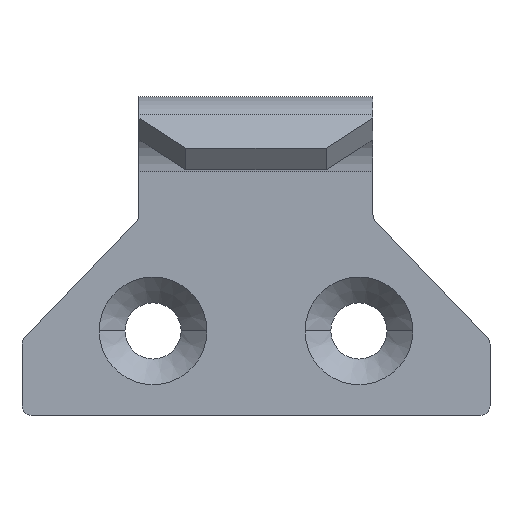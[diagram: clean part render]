
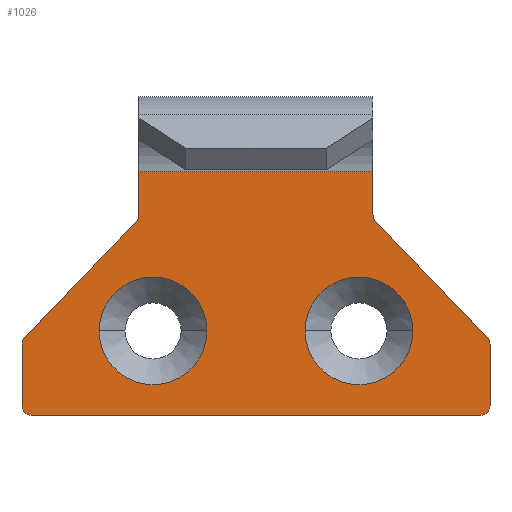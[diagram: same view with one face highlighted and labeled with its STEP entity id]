
A CAD part, top view. The second image highlights one B-rep face of the part: STEP entity #1026.
In plain terms, the highlighted planar face has unit normal (0, 0, 1).
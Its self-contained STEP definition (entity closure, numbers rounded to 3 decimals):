
#193=CARTESIAN_POINT('',(-12.5,4.5,1.5));
#194=VERTEX_POINT('',#193);
#202=CARTESIAN_POINT('',(12.5,4.5,1.5));
#203=VERTEX_POINT('',#202);
#204=CARTESIAN_POINT('',(12.5,4.5,1.5));
#205=DIRECTION('',(-1.0,0.0,0.0));
#206=VECTOR('',#205,25.0);
#207=LINE('',#204,#206);
#208=EDGE_CURVE('',#203,#194,#207,.T.);
#267=CARTESIAN_POINT('',(-5.25,-12.5,1.5));
#268=VERTEX_POINT('',#267);
#276=CARTESIAN_POINT('',(-16.75,-12.5,1.5));
#277=VERTEX_POINT('',#276);
#284=CARTESIAN_POINT('',(-11.0,-12.5,1.5));
#285=DIRECTION('',(0.0,0.0,-1.0));
#286=DIRECTION('',(1.0,0.0,0.0));
#287=AXIS2_PLACEMENT_3D('',#284,#285,#286);
#288=CIRCLE('',#287,5.75);
#289=EDGE_CURVE('',#268,#277,#288,.T.);
#341=CARTESIAN_POINT('',(16.75,-12.5,1.5));
#342=VERTEX_POINT('',#341);
#350=CARTESIAN_POINT('',(5.25,-12.5,1.5));
#351=VERTEX_POINT('',#350);
#358=CARTESIAN_POINT('',(11.0,-12.5,1.5));
#359=DIRECTION('',(0.0,0.0,-1.0));
#360=DIRECTION('',(1.0,0.0,0.0));
#361=AXIS2_PLACEMENT_3D('',#358,#359,#360);
#362=CIRCLE('',#361,5.75);
#363=EDGE_CURVE('',#342,#351,#362,.T.);
#375=CARTESIAN_POINT('',(-24.707,-21.207,1.5));
#376=VERTEX_POINT('',#375);
#392=CARTESIAN_POINT('',(-24.0,-21.5,1.5));
#393=VERTEX_POINT('',#392);
#400=CARTESIAN_POINT('',(-24.0,-20.5,1.5));
#401=DIRECTION('',(0.0,0.0,-1.));
#402=DIRECTION('',(-0.707,-0.707,0.0));
#403=AXIS2_PLACEMENT_3D('',#400,#401,#402);
#404=CIRCLE('',#403,1.);
#405=EDGE_CURVE('',#393,#376,#404,.T.);
#417=CARTESIAN_POINT('',(24.707,-21.207,1.5));
#418=VERTEX_POINT('',#417);
#434=CARTESIAN_POINT('',(25.0,-20.5,1.5));
#435=VERTEX_POINT('',#434);
#442=CARTESIAN_POINT('',(24.0,-20.5,1.5));
#443=DIRECTION('',(0.0,0.0,-1.));
#444=DIRECTION('',(0.707,-0.707,0.0));
#445=AXIS2_PLACEMENT_3D('',#442,#443,#444);
#446=CIRCLE('',#445,1.);
#447=EDGE_CURVE('',#435,#418,#446,.T.);
#459=CARTESIAN_POINT('',(24.928,-13.529,1.5));
#460=VERTEX_POINT('',#459);
#476=CARTESIAN_POINT('',(24.721,-13.21,1.5));
#477=VERTEX_POINT('',#476);
#484=CARTESIAN_POINT('',(24.0,-13.903,1.5));
#485=DIRECTION('',(0.0,0.0,-1.0));
#486=DIRECTION('',(0.928,0.374,0.0));
#487=AXIS2_PLACEMENT_3D('',#484,#485,#486);
#488=CIRCLE('',#487,1.0);
#489=EDGE_CURVE('',#477,#460,#488,.T.);
#501=CARTESIAN_POINT('',(12.572,-0.471,1.5));
#502=VERTEX_POINT('',#501);
#518=CARTESIAN_POINT('',(12.5,-0.097,1.5));
#519=VERTEX_POINT('',#518);
#526=CARTESIAN_POINT('',(13.5,-0.097,1.5));
#527=DIRECTION('',(0.0,0.0,1.0));
#528=DIRECTION('',(-0.928,-0.374,0.0));
#529=AXIS2_PLACEMENT_3D('',#526,#527,#528);
#530=CIRCLE('',#529,1.0);
#531=EDGE_CURVE('',#519,#502,#530,.T.);
#543=CARTESIAN_POINT('',(-12.572,-0.471,1.5));
#544=VERTEX_POINT('',#543);
#560=CARTESIAN_POINT('',(-12.779,-0.79,1.5));
#561=VERTEX_POINT('',#560);
#568=CARTESIAN_POINT('',(-13.5,-0.097,1.5));
#569=DIRECTION('',(0.0,0.0,1.));
#570=DIRECTION('',(0.928,-0.374,0.0));
#571=AXIS2_PLACEMENT_3D('',#568,#569,#570);
#572=CIRCLE('',#571,1.);
#573=EDGE_CURVE('',#561,#544,#572,.T.);
#585=CARTESIAN_POINT('',(-24.928,-13.529,1.5));
#586=VERTEX_POINT('',#585);
#602=CARTESIAN_POINT('',(-25.0,-13.903,1.5));
#603=VERTEX_POINT('',#602);
#610=CARTESIAN_POINT('',(-24.0,-13.903,1.5));
#611=DIRECTION('',(0.0,0.0,-1.));
#612=DIRECTION('',(-0.928,0.374,0.0));
#613=AXIS2_PLACEMENT_3D('',#610,#611,#612);
#614=CIRCLE('',#613,1.0);
#615=EDGE_CURVE('',#603,#586,#614,.T.);
#626=CARTESIAN_POINT('',(-24.721,-13.21,1.5));
#627=VERTEX_POINT('',#626);
#628=CARTESIAN_POINT('',(-24.0,-13.903,1.5));
#629=DIRECTION('',(0.0,0.0,-1.));
#630=DIRECTION('',(-0.928,0.374,0.0));
#631=AXIS2_PLACEMENT_3D('',#628,#629,#630);
#632=CIRCLE('',#631,1.0);
#633=EDGE_CURVE('',#586,#627,#632,.T.);
#782=CARTESIAN_POINT('',(-24.721,-13.21,1.5));
#783=DIRECTION('',(0.693,0.721,0.0));
#784=VECTOR('',#783,17.229);
#785=LINE('',#782,#784);
#786=EDGE_CURVE('',#627,#561,#785,.T.);
#799=CARTESIAN_POINT('',(-12.5,-0.097,1.5));
#800=VERTEX_POINT('',#799);
#801=CARTESIAN_POINT('',(-13.5,-0.097,1.5));
#802=DIRECTION('',(0.0,0.0,1.));
#803=DIRECTION('',(0.928,-0.374,0.0));
#804=AXIS2_PLACEMENT_3D('',#801,#802,#803);
#805=CIRCLE('',#804,1.);
#806=EDGE_CURVE('',#544,#800,#805,.T.);
#824=CARTESIAN_POINT('',(12.779,-0.79,1.5));
#825=VERTEX_POINT('',#824);
#826=CARTESIAN_POINT('',(13.5,-0.097,1.5));
#827=DIRECTION('',(0.0,0.0,1.0));
#828=DIRECTION('',(-0.928,-0.374,0.0));
#829=AXIS2_PLACEMENT_3D('',#826,#827,#828);
#830=CIRCLE('',#829,1.0);
#831=EDGE_CURVE('',#502,#825,#830,.T.);
#892=CARTESIAN_POINT('',(12.5,4.5,1.5));
#893=DIRECTION('',(0.0,-1.0,0.0));
#894=VECTOR('',#893,4.597);
#895=LINE('',#892,#894);
#896=EDGE_CURVE('',#203,#519,#895,.T.);
#907=CARTESIAN_POINT('',(25.0,-13.903,1.5));
#908=VERTEX_POINT('',#907);
#909=CARTESIAN_POINT('',(24.0,-13.903,1.5));
#910=DIRECTION('',(0.0,0.0,-1.0));
#911=DIRECTION('',(0.928,0.374,0.0));
#912=AXIS2_PLACEMENT_3D('',#909,#910,#911);
#913=CIRCLE('',#912,1.0);
#914=EDGE_CURVE('',#460,#908,#913,.T.);
#932=CARTESIAN_POINT('',(25.0,-13.903,1.5));
#933=DIRECTION('',(0.0,-1.0,0.0));
#934=VECTOR('',#933,6.597);
#935=LINE('',#932,#934);
#936=EDGE_CURVE('',#908,#435,#935,.T.);
#943=CARTESIAN_POINT('',(0.,-3.554,1.5));
#944=DIRECTION('',(0.0,0.0,1.0));
#945=DIRECTION('',(1.0,0.0,0.0));
#946=AXIS2_PLACEMENT_3D('',#943,#944,#945);
#947=PLANE('',#946);
#948=ORIENTED_EDGE('',*,*,#615,.F.);
#949=CARTESIAN_POINT('',(-25.0,-20.5,1.5));
#950=VERTEX_POINT('',#949);
#951=CARTESIAN_POINT('',(-25.0,-20.5,1.5));
#952=DIRECTION('',(0.0,1.0,0.0));
#953=VECTOR('',#952,6.597);
#954=LINE('',#951,#953);
#955=EDGE_CURVE('',#950,#603,#954,.T.);
#956=ORIENTED_EDGE('',*,*,#955,.F.);
#957=CARTESIAN_POINT('',(-24.0,-20.5,1.5));
#958=DIRECTION('',(0.0,0.0,-1.));
#959=DIRECTION('',(-0.707,-0.707,0.0));
#960=AXIS2_PLACEMENT_3D('',#957,#958,#959);
#961=CIRCLE('',#960,1.);
#962=EDGE_CURVE('',#376,#950,#961,.T.);
#963=ORIENTED_EDGE('',*,*,#962,.F.);
#964=ORIENTED_EDGE('',*,*,#405,.F.);
#965=CARTESIAN_POINT('',(24.0,-21.5,1.5));
#966=VERTEX_POINT('',#965);
#967=CARTESIAN_POINT('',(24.0,-21.5,1.5));
#968=DIRECTION('',(-1.0,0.0,0.0));
#969=VECTOR('',#968,48.0);
#970=LINE('',#967,#969);
#971=EDGE_CURVE('',#966,#393,#970,.T.);
#972=ORIENTED_EDGE('',*,*,#971,.F.);
#973=CARTESIAN_POINT('',(24.0,-20.5,1.5));
#974=DIRECTION('',(0.0,0.0,-1.));
#975=DIRECTION('',(0.707,-0.707,0.0));
#976=AXIS2_PLACEMENT_3D('',#973,#974,#975);
#977=CIRCLE('',#976,1.);
#978=EDGE_CURVE('',#418,#966,#977,.T.);
#979=ORIENTED_EDGE('',*,*,#978,.F.);
#980=ORIENTED_EDGE('',*,*,#447,.F.);
#981=ORIENTED_EDGE('',*,*,#936,.F.);
#982=ORIENTED_EDGE('',*,*,#914,.F.);
#983=ORIENTED_EDGE('',*,*,#489,.F.);
#984=CARTESIAN_POINT('',(12.779,-0.79,1.5));
#985=DIRECTION('',(0.693,-0.721,0.0));
#986=VECTOR('',#985,17.229);
#987=LINE('',#984,#986);
#988=EDGE_CURVE('',#825,#477,#987,.T.);
#989=ORIENTED_EDGE('',*,*,#988,.F.);
#990=ORIENTED_EDGE('',*,*,#831,.F.);
#991=ORIENTED_EDGE('',*,*,#531,.F.);
#992=ORIENTED_EDGE('',*,*,#896,.F.);
#993=ORIENTED_EDGE('',*,*,#208,.T.);
#994=CARTESIAN_POINT('',(-12.5,-0.097,1.5));
#995=DIRECTION('',(0.0,1.0,0.0));
#996=VECTOR('',#995,4.597);
#997=LINE('',#994,#996);
#998=EDGE_CURVE('',#800,#194,#997,.T.);
#999=ORIENTED_EDGE('',*,*,#998,.F.);
#1000=ORIENTED_EDGE('',*,*,#806,.F.);
#1001=ORIENTED_EDGE('',*,*,#573,.F.);
#1002=ORIENTED_EDGE('',*,*,#786,.F.);
#1003=ORIENTED_EDGE('',*,*,#633,.F.);
#1004=EDGE_LOOP('',(#948,#956,#963,#964,#972,#979,#980,#981,#982,#983,#989,#990,#991,#992,#993,#999,#1000,#1001,#1002,#1003));
#1005=FACE_OUTER_BOUND('',#1004,.T.);
#1006=ORIENTED_EDGE('',*,*,#289,.T.);
#1007=CARTESIAN_POINT('',(-11.0,-12.5,1.5));
#1008=DIRECTION('',(0.0,0.0,-1.0));
#1009=DIRECTION('',(1.0,0.0,0.0));
#1010=AXIS2_PLACEMENT_3D('',#1007,#1008,#1009);
#1011=CIRCLE('',#1010,5.75);
#1012=EDGE_CURVE('',#277,#268,#1011,.T.);
#1013=ORIENTED_EDGE('',*,*,#1012,.T.);
#1014=EDGE_LOOP('',(#1006,#1013));
#1015=FACE_BOUND('',#1014,.T.);
#1016=ORIENTED_EDGE('',*,*,#363,.T.);
#1017=CARTESIAN_POINT('',(11.0,-12.5,1.5));
#1018=DIRECTION('',(0.0,0.0,-1.0));
#1019=DIRECTION('',(1.0,0.0,0.0));
#1020=AXIS2_PLACEMENT_3D('',#1017,#1018,#1019);
#1021=CIRCLE('',#1020,5.75);
#1022=EDGE_CURVE('',#351,#342,#1021,.T.);
#1023=ORIENTED_EDGE('',*,*,#1022,.T.);
#1024=EDGE_LOOP('',(#1016,#1023));
#1025=FACE_BOUND('',#1024,.T.);
#1026=ADVANCED_FACE('',(#1005,#1015,#1025),#947,.T.);
